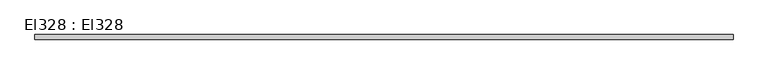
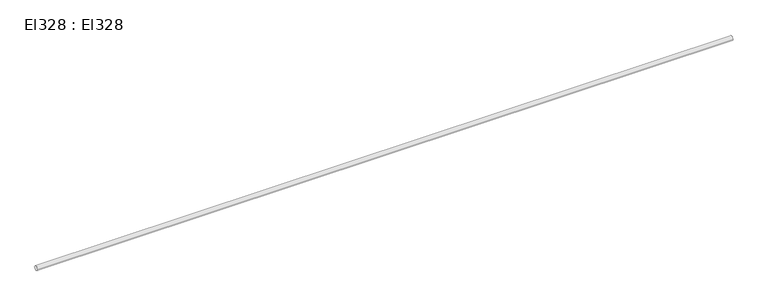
"""IFC4 building model written with IfcOpenShell, lengths in millimetres: cable carrier segment geometry, El328 : El328."""

import ifcopenshell
import ifcopenshell.guid

model = None  # the IFC model being written
_history = None  # IfcOwnerHistory: only IFC2X3 demands one
_inside = {}  # id of a spatial element -> (the spatial element, [elements in it])
_under = {}  # id of a project, library or spatial element -> (it, [spatial elements below it])
_declared = {}  # id of a project -> (the project, [libraries it declares])
_typed = {}  # id of a type object -> (the type object, [elements of that type])
_made_of = {}  # id of a material, layer set ... -> (it, [elements and type objects made of it])


def new_model(schema):
    """Start an empty IFC model of exactly this schema.

    Asked for "IFC4X3", IfcOpenShell would pick the latest addendum, in which some entities
    have other attributes; the version numbers below select the first issue.
    IFC2X3 requires an IfcOwnerHistory on every rooted entity: one is made here for all.
    """
    global model, _history
    if schema == "IFC4X3":
        model = ifcopenshell.file(schema_version=(4, 3, 0, 0))
    else:
        model = ifcopenshell.file(schema=schema)
    _inside.clear()
    _under.clear()
    _declared.clear()
    _typed.clear()
    _made_of.clear()
    _history = None
    if model.schema == "IFC2X3":
        org = make("IfcOrganization", Name="unknown")
        user = make(
            "IfcPersonAndOrganization",
            ThePerson=make("IfcPerson", FamilyName="unknown"),
            TheOrganization=org,
        )
        app = make(
            "IfcApplication",
            ApplicationDeveloper=org,
            Version="unknown",
            ApplicationFullName="unknown",
            ApplicationIdentifier="unknown",
        )
        _history = make(
            "IfcOwnerHistory",
            OwningUser=user,
            OwningApplication=app,
            ChangeAction="ADDED",
            CreationDate=0,
        )
    return model


def make(cls, **values):
    """One entity of the class cls with the attributes given. An attribute that is None is left unset."""
    return model.create_entity(
        cls, **{name: value for name, value in values.items() if value is not None}
    )


def rooted(cls, **values):
    """An entity with a GlobalId (a new one), such as an element, a storey or a relation."""
    return make(cls, GlobalId=ifcopenshell.guid.new(), OwnerHistory=_history, **values)


def si_unit(unit_type, name, prefix=None):
    """IfcSIUnit, for example si_unit("LENGTHUNIT", "METRE", prefix="MILLI")."""
    return make("IfcSIUnit", UnitType=unit_type, Prefix=prefix, Name=name)


def assignment(units):
    """IfcUnitAssignment: the units of a project."""
    return None if units is None else make("IfcUnitAssignment", Units=units)


def point(xyz):
    """IfcCartesianPoint."""
    return None if xyz is None else make("IfcCartesianPoint", Coordinates=xyz)


def direction(xyz):
    """IfcDirection."""
    return None if xyz is None else make("IfcDirection", DirectionRatios=xyz)


def frame(location, z_axis=None, x_axis=None):
    """IfcAxis2Placement3D, a coordinate frame: its origin and axes. An axis left out is left unset."""
    return make(
        "IfcAxis2Placement3D",
        Location=point(location),
        Axis=direction(z_axis),
        RefDirection=direction(x_axis),
    )


def frame_2d(location, x_axis=None):
    """IfcAxis2Placement2D, a coordinate frame in the plane: its origin and x axis."""
    return make(
        "IfcAxis2Placement2D", Location=point(location), RefDirection=direction(x_axis)
    )


def origin():
    """The frame at (0, 0, 0) with its axes left unset."""
    return frame((0.0, 0.0, 0.0))


def place(relative_to, where):
    """IfcLocalPlacement: puts the frame where relative to a parent placement (None: the world)."""
    return make(
        "IfcLocalPlacement", PlacementRelTo=relative_to, RelativePlacement=where
    )


def context(
    kind, dimensions, precision=None, world=None, true_north=None, identifier=None
):
    """IfcGeometricRepresentationContext, for example the 3D "Model" context."""
    return make(
        "IfcGeometricRepresentationContext",
        ContextIdentifier=identifier,
        ContextType=kind,
        CoordinateSpaceDimension=dimensions,
        Precision=precision,
        WorldCoordinateSystem=world,
        TrueNorth=true_north,
    )


def project(units=None, contexts=None):
    """IfcProject with its units and contexts."""
    return rooted(
        "IfcProject",
        Name="project",
        RepresentationContexts=contexts,
        UnitsInContext=assignment(units),
    )


def spatial(cls, under=None, at=None, **own):
    """A site, building, storey or space (cls), placed at a placement, below another one or the project."""
    s = rooted(cls, ObjectPlacement=at, **own)
    if under is not None:
        _under.setdefault(under.id(), (under, []))[1].append(s)
    return s


def circle_curve(where, radius):
    """IfcCircle in the frame where."""
    return make("IfcCircle", Position=where, Radius=radius)


def trimmed(basis, trim1, trim2, sense, master):
    """IfcTrimmedCurve: the piece of a basis curve between two trims."""
    return make(
        "IfcTrimmedCurve",
        BasisCurve=basis,
        Trim1=trim1,
        Trim2=trim2,
        SenseAgreement=sense,
        MasterRepresentation=master,
    )


def segment(curve, same_sense, transition):
    """IfcCompositeCurveSegment."""
    return make(
        "IfcCompositeCurveSegment",
        Transition=transition,
        SameSense=same_sense,
        ParentCurve=curve,
    )


def composite_curve(segments, self_intersect=None):
    """IfcCompositeCurve: segments joined end to end."""
    return make("IfcCompositeCurve", Segments=segments, SelfIntersect=self_intersect)


def outline(outer, holes=None, kind="AREA"):
    """IfcArbitraryClosedProfileDef: a profile drawn as a closed curve; with holes, ...WithVoids."""
    if holes is None:
        return make("IfcArbitraryClosedProfileDef", ProfileType=kind, OuterCurve=outer)
    return make(
        "IfcArbitraryProfileDefWithVoids",
        ProfileType=kind,
        OuterCurve=outer,
        InnerCurves=holes,
    )


def extrude(swept, where, along, depth):
    """IfcExtrudedAreaSolid: the profile swept, set in the frame where, extruded along a direction by depth."""
    return make(
        "IfcExtrudedAreaSolid",
        SweptArea=swept,
        Position=where,
        ExtrudedDirection=direction(along),
        Depth=depth,
    )


def shape(context_of_items, identifier, shape_type, items):
    """IfcShapeRepresentation: the items that make up one representation, for example the "Body"."""
    return make(
        "IfcShapeRepresentation",
        ContextOfItems=context_of_items,
        RepresentationIdentifier=identifier,
        RepresentationType=shape_type,
        Items=items,
    )


def source(mapping_origin, context_of_items, identifier, shape_type, items):
    """IfcRepresentationMap: a shape defined once, which mapped items show again and again."""
    return make(
        "IfcRepresentationMap",
        MappingOrigin=mapping_origin,
        MappedRepresentation=shape(context_of_items, identifier, shape_type, items),
    )


def transform(
    local_origin,
    x_axis=None,
    y_axis=None,
    z_axis=None,
    scale=None,
    scale2=None,
    scale3=None,
    uniform=True,
):
    """IfcCartesianTransformationOperator3D, or its non-uniform kind. x_axis, y_axis, z_axis: its Axis1, 2, 3."""
    if uniform:
        return make(
            "IfcCartesianTransformationOperator3D",
            Axis1=direction(x_axis),
            Axis2=direction(y_axis),
            LocalOrigin=point(local_origin),
            Scale=scale,
            Axis3=direction(z_axis),
        )
    return make(
        "IfcCartesianTransformationOperator3DnonUniform",
        Axis1=direction(x_axis),
        Axis2=direction(y_axis),
        LocalOrigin=point(local_origin),
        Scale=scale,
        Axis3=direction(z_axis),
        Scale2=scale2,
        Scale3=scale3,
    )


def mapped(mapping_source, mapping_target):
    """IfcMappedItem: shows the shape of a source again, moved by a transform."""
    return make(
        "IfcMappedItem", MappingSource=mapping_source, MappingTarget=mapping_target
    )


def made_of(thing, what):
    """Note that an element or type object is made of a material, layer set ...; save() writes the relation."""
    if what is not None:
        _made_of.setdefault(what.id(), (what, []))[1].append(thing)
    return thing


def element(
    cls,
    number,
    at=None,
    inside=None,
    cuts=None,
    type_object=None,
    material=None,
    context=None,
    identifier="Body",
    shape_type=None,
    held_by="IfcProductDefinitionShape",
    body=None,
    shapes=None,
    **own,
):
    """One element of the class cls, such as IfcWall. Its Tag is "e" and its number.

    at: its placement. inside: the storey or other place that contains it. cuts: it is an
    opening in that element (IfcRelVoidsElement). A single representation is given by context,
    identifier, shape_type and body (its items); several are given by shapes. held_by: the class
    of the entity that holds the representations. save() writes the other relations.
    """
    e = rooted(cls, Tag="e%d" % number, ObjectPlacement=at, **own)
    if body is not None:
        shapes = [shape(context, identifier, shape_type, body)]
    if shapes is not None:
        e.Representation = make(held_by, Representations=shapes)
    if inside is not None:
        _inside.setdefault(inside.id(), (inside, []))[1].append(e)
    if cuts is not None:
        rooted(
            "IfcRelVoidsElement", RelatingBuildingElement=cuts, RelatedOpeningElement=e
        )
    if type_object is not None:
        _typed.setdefault(type_object.id(), (type_object, []))[1].append(e)
    return made_of(e, material)


def aggregate(whole, parts):
    """IfcRelAggregates: a whole, such as a stair, and the parts it consists of."""
    return rooted("IfcRelAggregates", RelatingObject=whole, RelatedObjects=parts)


def save(model, path):
    """Write the relations noted so far, then the file.

    IfcRelAggregates (storeys below a building ...), IfcRelContainedInSpatialStructure (elements
    in a storey), IfcRelDefinesByType, IfcRelAssociatesMaterial and IfcRelDeclares: one each for
    every whole, place, type object, material and project.
    """
    for whole, parts in _under.values():
        aggregate(whole, parts)
    for where, things in _inside.values():
        rooted(
            "IfcRelContainedInSpatialStructure",
            RelatedElements=things,
            RelatingStructure=where,
        )
    for kind, things in _typed.values():
        rooted("IfcRelDefinesByType", RelatedObjects=things, RelatingType=kind)
    for what, things in _made_of.values():
        rooted("IfcRelAssociatesMaterial", RelatedObjects=things, RelatingMaterial=what)
    for by, libraries in _declared.values():
        rooted("IfcRelDeclares", RelatingContext=by, RelatedDefinitions=libraries)
    model.write(path)


def el328_el328_48b8c667(model_context):
    return source(origin(), model_context, "Body", "SweptSolid", [
        extrude(outline(composite_curve([segment(trimmed(circle_curve(frame_2d((6769.5, 2950.0)), 9.5), [point((6760.0, 2950.0))], [point((6779.0, 2950.0))], False, "CARTESIAN"), True, "CONTINUOUS"), segment(trimmed(circle_curve(frame_2d((6769.5, 2950.0)), 9.5), [point((6779.0, 2950.0))], [point((6760.0, 2950.0))], False, "CARTESIAN"), True, "CONTINUOUS")], self_intersect=False)), frame((9776.13, 0.0, 0.0), z_axis=(1.0, 0.0, 0.0), x_axis=(0.0, 1.0, 0.0)), (0.0, 0.0, 1.0), 2883.33),
    ])


if __name__ == "__main__":
    model = new_model("IFC4")
    model_context = context("Model", 3, world=origin())
    ifc_project = project(units=[si_unit("LENGTHUNIT", "METRE", prefix="MILLI")], contexts=[model_context])
    site = spatial("IfcSite", under=ifc_project)
    building = spatial("IfcBuilding", under=site)
    placement = place(None, origin())
    el328_el328_shape = el328_el328_48b8c667(model_context)
    element("IfcCableCarrierSegment", 1, ObjectType="El328 : El328", at=placement, inside=building, context=model_context, shape_type="MappedRepresentation", body=[
        mapped(el328_el328_shape, transform((0.0, 0.0, 0.0), x_axis=(1.0, 0.0, 0.0), y_axis=(0.0, 1.0, 0.0), z_axis=(0.0, 0.0, 1.0))),
    ])
    save(model, "model.ifc")
